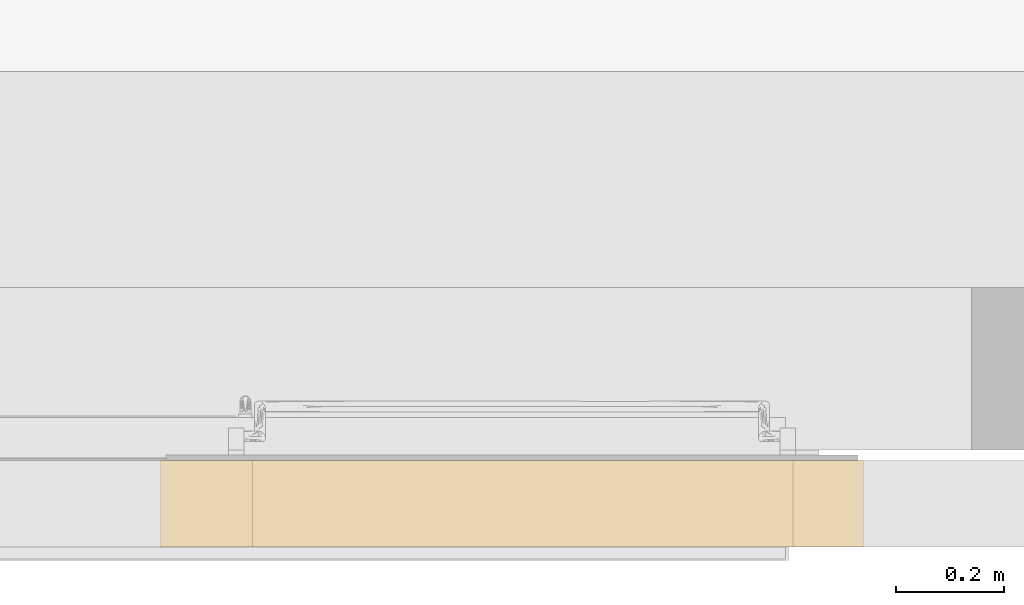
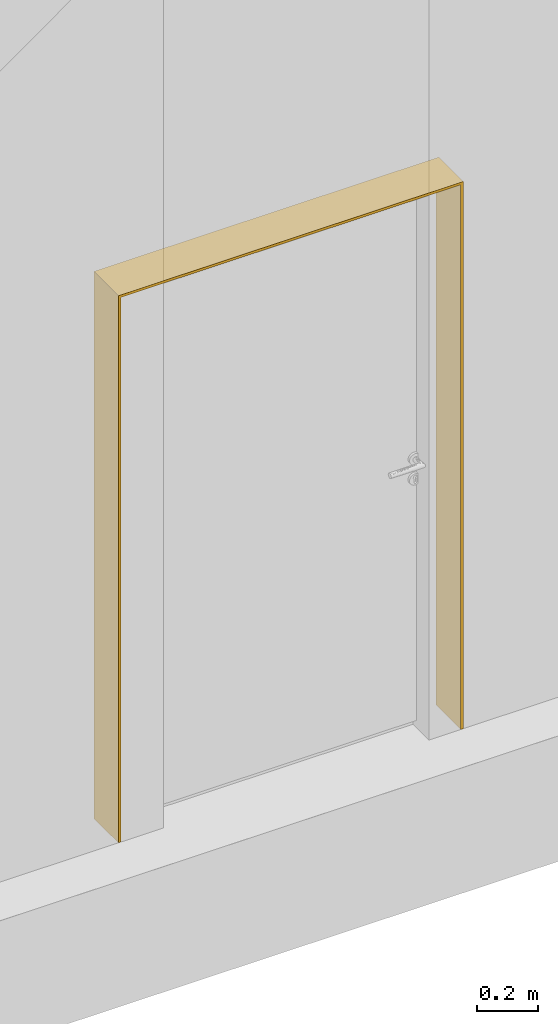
# One storey, part 222 of 302: 1 curtain wall, 1 opening, 1 element without a shape of its own.
"""IFC2X3 building model written with IfcOpenShell, lengths in metres."""

from ifc_helpers import new_model, entity, si_unit, converted_unit, derived_unit, direction, frame, frame_2d, origin, place, context, subcontext, project, spatial, rectangle, extrude, material, layer, layer_set, layer_usage, type_object, element, aggregate, save


model = new_model("IFC2X3")

# Units and contexts
model_context = context("Model", 3, precision=1e-05, world=origin(), true_north=direction((6.12303176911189e-17, 1.0)))
body_context = subcontext(model_context, "Body", "Model", "MODEL_VIEW")
ifc_project = project(units=[si_unit("LENGTHUNIT", "METRE"), si_unit("AREAUNIT", "SQUARE_METRE"), si_unit("VOLUMEUNIT", "CUBIC_METRE"), converted_unit("PLANEANGLEUNIT", "DEGREE", entity("IfcRatioMeasure", 0.0174532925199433), si_unit("PLANEANGLEUNIT", "RADIAN"), dimensions=[0, 0, 0, 0, 0, 0, 0]), si_unit("MASSUNIT", "GRAM", prefix="KILO"), derived_unit("MASSDENSITYUNIT", [(si_unit("MASSUNIT", "GRAM", prefix="KILO"), 1), (si_unit("LENGTHUNIT", "METRE"), -3)]), derived_unit("MOMENTOFINERTIAUNIT", [(si_unit("LENGTHUNIT", "METRE"), 4)]), si_unit("TIMEUNIT", "SECOND"), si_unit("FREQUENCYUNIT", "HERTZ"), si_unit("THERMODYNAMICTEMPERATUREUNIT", "DEGREE_CELSIUS"), derived_unit("THERMALTRANSMITTANCEUNIT", [(si_unit("MASSUNIT", "GRAM", prefix="KILO"), 1), (si_unit("THERMODYNAMICTEMPERATUREUNIT", "KELVIN"), -1), (si_unit("TIMEUNIT", "SECOND"), -3)]), derived_unit("VOLUMETRICFLOWRATEUNIT", [(si_unit("LENGTHUNIT", "METRE"), 3), (si_unit("TIMEUNIT", "SECOND"), -1)]), si_unit("ELECTRICCURRENTUNIT", "AMPERE"), si_unit("ELECTRICVOLTAGEUNIT", "VOLT"), si_unit("POWERUNIT", "WATT"), si_unit("FORCEUNIT", "NEWTON", prefix="KILO"), si_unit("ILLUMINANCEUNIT", "LUX"), si_unit("LUMINOUSFLUXUNIT", "LUMEN"), si_unit("LUMINOUSINTENSITYUNIT", "CANDELA"), derived_unit("USERDEFINED", [(si_unit("MASSUNIT", "GRAM", prefix="KILO"), -1), (si_unit("LENGTHUNIT", "METRE"), -2), (si_unit("TIMEUNIT", "SECOND"), 3), (si_unit("LUMINOUSFLUXUNIT", "LUMEN"), 1)]), derived_unit("LINEARVELOCITYUNIT", [(si_unit("LENGTHUNIT", "METRE"), 1), (si_unit("TIMEUNIT", "SECOND"), -1)]), si_unit("PRESSUREUNIT", "PASCAL"), derived_unit("USERDEFINED", [(si_unit("LENGTHUNIT", "METRE"), -2), (si_unit("MASSUNIT", "GRAM", prefix="KILO"), 1), (si_unit("TIMEUNIT", "SECOND"), -2)]), derived_unit("LINEARFORCEUNIT", [(si_unit("MASSUNIT", "GRAM", prefix="KILO"), 1), (si_unit("LENGTHUNIT", "METRE"), 1), (si_unit("TIMEUNIT", "SECOND"), -2), (si_unit("LENGTHUNIT", "METRE"), -1)]), derived_unit("PLANARFORCEUNIT", [(si_unit("MASSUNIT", "GRAM", prefix="KILO"), 1), (si_unit("LENGTHUNIT", "METRE"), 1), (si_unit("TIMEUNIT", "SECOND"), -2), (si_unit("LENGTHUNIT", "METRE"), -2)])], contexts=[model_context])

# Site, building, storey
site_placement = place(None, origin())
site = spatial("IfcSite", under=ifc_project, at=site_placement, Name="Default", CompositionType="ELEMENT")
building_placement = place(site_placement, origin())
building = spatial("IfcBuilding", under=site, at=building_placement, CompositionType="ELEMENT")
storey_placement = place(building_placement, frame((0.0, 0.0, -1.3)))
storey = spatial("IfcBuildingStorey", under=building, at=storey_placement, Name="00_EG", CompositionType="ELEMENT", Elevation=-1.3)

# Curtain walls, opening
curtain_wall_type_1 = type_object("IfcCurtainWallType", Name="Fassade:Sandwichpaneele 16cm", PredefinedType="NOTDEFINED")
curtain_wall_1_placement = place(storey_placement, frame((0.0, 0.0, 1.3)))
curtain_wall_1 = element("IfcCurtainWall", 1, at=curtain_wall_1_placement, inside=storey, type_object=curtain_wall_type_1, Name="Fassade:Sandwichpaneele 16cm", ObjectType="Fassade:Sandwichpaneele 16cm")
ifc_material_1 = material(Name="Prepainted_Steel-ArcelorMittal_Construction_HAIRULTRA-35-CORAL-4309-[RAL_3000]")
ifc_layer_1 = layer(ifc_material_1, 0.015)
ifc_material_2 = material(Name="ArcelorMittal-MineralWool")
ifc_layer_2 = layer(ifc_material_2, 0.13)
ifc_material_3 = material(Name="Prepainted_Steel-ArcelorMittal_Construction_INTÉRIEUR-12-WHITE-912")
ifc_layer_3 = layer(ifc_material_3, 0.015)
ifc_layer_set = layer_set([ifc_layer_1, ifc_layer_2, ifc_layer_3], Name="Fassade:Sandwichpaneele 16cm")
ifc_layer_usage = layer_usage(ifc_layer_set, "AXIS2", "POSITIVE", -0.08)
curtain_wall_type_2 = type_object("IfcCurtainWallType", Name="Basiswand:Sandwichpaneele d = 16cm aussen", PredefinedType="NOTDEFINED", material=ifc_layer_set)
curtain_wall_2_placement = place(storey_placement, frame((-229.010111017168, 14.898088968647, 1.27)))
curtain_wall_2 = element("IfcCurtainWall", 2, at=curtain_wall_2_placement, type_object=curtain_wall_type_2, material=ifc_layer_usage, Name="Basiswand:Sandwichpaneele d = 16cm aussen", ObjectType="Basiswand:Sandwichpaneele d = 16cm aussen", context=body_context, shape_type="SweptSolid", body=[
    extrude(rectangle(XDim=1.29999999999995, YDim=0.159999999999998, at=frame_2d((0.649999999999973, 0.0), x_axis=(-1.0, 0.0))), origin(), (0.0, 0.0, 1.0), 2.18),
])
opening_placement = place(curtain_wall_2_placement, frame((229.010111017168, -14.898088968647, -1.27)))
element("IfcOpeningElement", 3, at=opening_placement, cuts=curtain_wall_2, Name="Basiswand:Sandwichpaneele d = 16cm aussen", ObjectType="Opening", context=body_context, shape_type="SweptSolid", body=[
    extrude(rectangle(XDim=2.16999999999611, YDim=1.27999999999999, at=frame_2d((-1.73194791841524e-14, 5.55111512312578e-16), x_axis=(0.0, 1.0))), frame((-228.360111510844, 14.8180889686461, 2.35499999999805), z_axis=(0.0, 1.0, 0.0), x_axis=(1.0, 0.0, 0.0)), (0.0, 0.0, 1.0), 0.160000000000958),
])
aggregate(curtain_wall_1, [curtain_wall_2])

save(model, "model.ifc")
